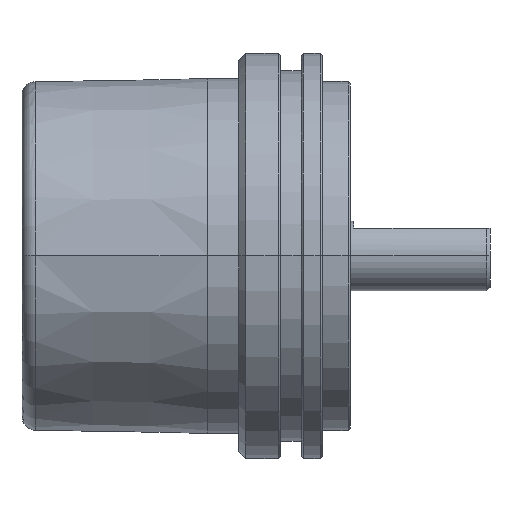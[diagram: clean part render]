
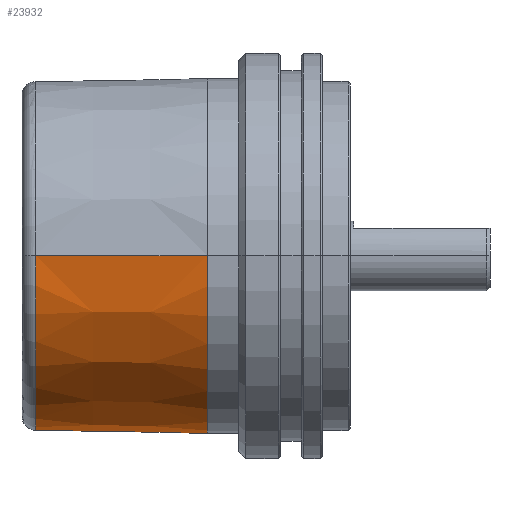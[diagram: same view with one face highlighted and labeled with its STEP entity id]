
A CAD part, top view. The second image highlights one B-rep face of the part: STEP entity #23932.
In plain terms, the highlighted conical face has half-angle 1 degrees and reference radius 25.4 mm.
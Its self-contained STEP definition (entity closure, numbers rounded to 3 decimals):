
#6662 = DIRECTION ( 'NONE',  ( 1., 0., 0.017 ) ) ;
#6663 = VECTOR ( 'NONE', #6662, 1000. ) ;
#6664 = CARTESIAN_POINT ( 'NONE',  ( 5.5, 0., 25.4 ) ) ;
#6665 = LINE ( 'NONE', #6664, #6663 ) ;
#6721 = CARTESIAN_POINT ( 'NONE',  ( 5.5, 0., 25.4 ) ) ;
#12412 = CARTESIAN_POINT ( 'NONE',  ( -19., -16.728, -18.542 ) ) ;
#12413 = CARTESIAN_POINT ( 'NONE',  ( -11.501, -16.586, -18.846 ) ) ;
#12414 = CARTESIAN_POINT ( 'NONE',  ( -4.001, -16.45, -19.137 ) ) ;
#12415 = CARTESIAN_POINT ( 'NONE',  ( 3.5, -16.319, -19.418 ) ) ;
#12416 = CARTESIAN_POINT ( 'NONE',  ( -19., -16.728, -18.542 ) ) ;
#12417 = B_SPLINE_CURVE_WITH_KNOTS ( 'NONE', 3,
 ( #12415, #12414, #12413, #12412 ),
 .UNSPECIFIED., .F., .F.,
 ( 4, 4 ),
 ( 0.002, 0.025 ),
 .UNSPECIFIED. ) ;
#12418 = CARTESIAN_POINT ( 'NONE',  ( 5.5, -12.989, -21.828 ) ) ;
#12419 = CARTESIAN_POINT ( 'NONE',  ( 3.5, -16.319, -19.418 ) ) ;
#12431 = CARTESIAN_POINT ( 'NONE',  ( 5.5, 0., 0. ) ) ;
#12432 = AXIS2_PLACEMENT_3D ( 'NONE', #12431, #12480, #12479 ) ;
#12433 = CIRCLE ( 'NONE', #12432, 25.4 ) ;
#12444 = CARTESIAN_POINT ( 'NONE',  ( -19., -16.728, -18.542 ) ) ;
#12445 = CARTESIAN_POINT ( 'NONE',  ( -19.012, -16.728, -18.541 ) ) ;
#12446 = CARTESIAN_POINT ( 'NONE',  ( -19.023, -16.728, -18.541 ) ) ;
#12447 = CARTESIAN_POINT ( 'NONE',  ( -19.035, -16.728, -18.541 ) ) ;
#12449 = B_SPLINE_CURVE_WITH_KNOTS ( 'NONE', 3,
 ( #12447, #12446, #12445, #12444 ),
 .UNSPECIFIED., .F., .F.,
 ( 4, 4 ),
 ( 0., 0. ),
 .UNSPECIFIED. ) ;
#12479 = DIRECTION ( 'NONE',  ( 0., 0., -1. ) ) ;
#12480 = DIRECTION ( 'NONE',  ( -1., 0., 0. ) ) ;
#12499 = CARTESIAN_POINT ( 'NONE',  ( -19.035, -16.728, -18.541 ) ) ;
#13031 = DIRECTION ( 'NONE',  ( 0., 0., -1. ) ) ;
#13032 = DIRECTION ( 'NONE',  ( 1., 0., 0. ) ) ;
#13033 = CARTESIAN_POINT ( 'NONE',  ( -19.035, 0., 0. ) ) ;
#13034 = AXIS2_PLACEMENT_3D ( 'NONE', #13033, #13032, #13031 ) ;
#13035 = CIRCLE ( 'NONE', #13034, 24.972 ) ;
#13390 = FACE_OUTER_BOUND ( 'NONE', #23808, .T. ) ;
#13427 = DIRECTION ( 'NONE',  ( 0., 0., 1. ) ) ;
#13428 = DIRECTION ( 'NONE',  ( 1., 0., 0. ) ) ;
#13429 = CARTESIAN_POINT ( 'NONE',  ( 5.5, 0., 0. ) ) ;
#13430 = AXIS2_PLACEMENT_3D ( 'NONE', #13429, #13428, #13427 ) ;
#13431 = CONICAL_SURFACE ( 'NONE', #13430, 25.4, 0.017 ) ;
#13482 = CARTESIAN_POINT ( 'NONE',  ( 5.5, -12.989, -21.828 ) ) ;
#13483 = CARTESIAN_POINT ( 'NONE',  ( 5.5, -13.341, -21.618 ) ) ;
#13484 = CARTESIAN_POINT ( 'NONE',  ( 5.461, -13.682, -21.403 ) ) ;
#13485 = CARTESIAN_POINT ( 'NONE',  ( 5.317, -14.347, -20.96 ) ) ;
#13486 = CARTESIAN_POINT ( 'NONE',  ( 5.21, -14.672, -20.731 ) ) ;
#13487 = CARTESIAN_POINT ( 'NONE',  ( 4.995, -15.13, -20.392 ) ) ;
#13488 = CARTESIAN_POINT ( 'NONE',  ( 4.914, -15.278, -20.28 ) ) ;
#13489 = CARTESIAN_POINT ( 'NONE',  ( 4.727, -15.562, -20.058 ) ) ;
#13490 = CARTESIAN_POINT ( 'NONE',  ( 4.62, -15.701, -19.947 ) ) ;
#13491 = CARTESIAN_POINT ( 'NONE',  ( 4.436, -15.89, -19.792 ) ) ;
#13492 = CARTESIAN_POINT ( 'NONE',  ( 4.37, -15.95, -19.742 ) ) ;
#13493 = CARTESIAN_POINT ( 'NONE',  ( 4.228, -16.062, -19.648 ) ) ;
#13494 = CARTESIAN_POINT ( 'NONE',  ( 4.151, -16.115, -19.603 ) ) ;
#13495 = CARTESIAN_POINT ( 'NONE',  ( 3.902, -16.252, -19.484 ) ) ;
#13496 = CARTESIAN_POINT ( 'NONE',  ( 3.708, -16.315, -19.426 ) ) ;
#13497 = CARTESIAN_POINT ( 'NONE',  ( 3.5, -16.319, -19.418 ) ) ;
#13505 = B_SPLINE_CURVE_WITH_KNOTS ( 'NONE', 3,
 ( #13497, #13496, #13495, #13494, #13493, #13492, #13491, #13490, #13489, #13488, #13487, #13486, #13485, #13484, #13483, #13482 ),
 .UNSPECIFIED., .F., .F.,
 ( 4, 2, 2, 2, 2, 2, 2, 4 ),
 ( 0., 0.001, 0.001, 0.001, 0.002, 0.002, 0.004, 0.005 ),
 .UNSPECIFIED. ) ;
#15022 = VERTEX_POINT ( 'NONE', #20448 ) ;
#17725 = EDGE_CURVE ( 'NONE', #15022, #17737, #6665, .T. ) ;
#17737 = VERTEX_POINT ( 'NONE', #6721 ) ;
#20448 = CARTESIAN_POINT ( 'NONE',  ( -19.035, 0., 24.972 ) ) ;
#23628 = VERTEX_POINT ( 'NONE', #12419 ) ;
#23630 = EDGE_CURVE ( 'NONE', #23628, #23633, #12417, .T. ) ;
#23632 = ORIENTED_EDGE ( 'NONE', *, *, #23630, .F. ) ;
#23633 = VERTEX_POINT ( 'NONE', #12416 ) ;
#23634 = VERTEX_POINT ( 'NONE', #12418 ) ;
#23638 = ORIENTED_EDGE ( 'NONE', *, *, #23964, .T. ) ;
#23641 = ORIENTED_EDGE ( 'NONE', *, *, #23642, .T. ) ;
#23642 = EDGE_CURVE ( 'NONE', #23654, #23633, #12449, .T. ) ;
#23651 = EDGE_CURVE ( 'NONE', #23634, #17737, #12433, .T. ) ;
#23654 = VERTEX_POINT ( 'NONE', #12499 ) ;
#23807 = EDGE_CURVE ( 'NONE', #15022, #23654, #13035, .T. ) ;
#23808 = EDGE_LOOP ( 'NONE', ( #23813, #23809, #23641, #23632, #23638, #23965 ) ) ;
#23809 = ORIENTED_EDGE ( 'NONE', *, *, #23807, .T. ) ;
#23813 = ORIENTED_EDGE ( 'NONE', *, *, #17725, .F. ) ;
#23932 = ADVANCED_FACE ( 'NONE', ( #13390 ), #13431, .T. ) ;
#23964 = EDGE_CURVE ( 'NONE', #23628, #23634, #13505, .T. ) ;
#23965 = ORIENTED_EDGE ( 'NONE', *, *, #23651, .T. ) ;
